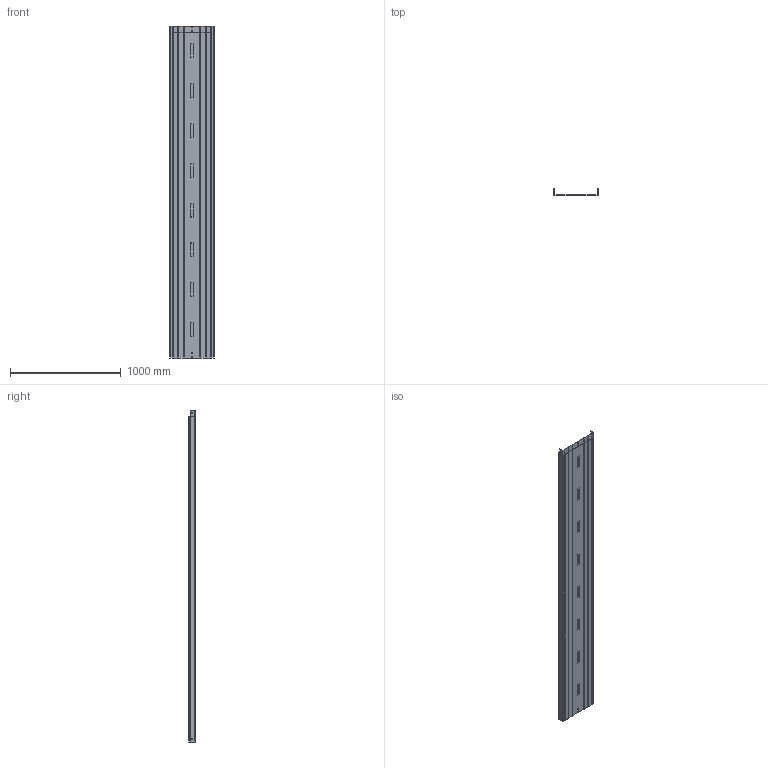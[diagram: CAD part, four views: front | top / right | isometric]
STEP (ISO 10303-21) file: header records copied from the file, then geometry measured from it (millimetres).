
FILE_DESCRIPTION (( 'STEP AP203' ), '1' );
FILE_NAME ('ERE-C 400x60 400x60.step', '2023-07-27T14:07:22', ( '' ), ( '' ), 'SwSTEP 2.0', 'SolidWorks 2022', '' );
FILE_SCHEMA (( 'CONFIG_CONTROL_DESIGN' ));
Products named in the file (1): ERE-C 400x60 400x60
Bounding box: 400 x 60.8 x 3000 mm (x, y, z)
Volume: 1281805.7 mm3; surface area: 3204227 mm2
Topology: 1 solids, 1 shells, 10188 faces, 29862 edges, 19756 vertices
Faces by surface type: plane 9820, cylinder 236, torus 68, cone 56, bspline 4, sphere 4
Entity records: 331037 total; most frequent: CARTESIAN_POINT 60201, ORIENTED_EDGE 59724, DIRECTION 50674, EDGE_CURVE 29862, VECTOR 29192, LINE 29192, VERTEX_POINT 19756, AXIS2_PLACEMENT_3D 10741
